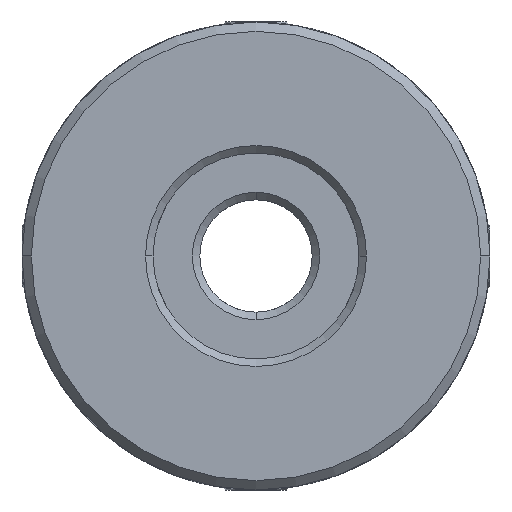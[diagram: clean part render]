
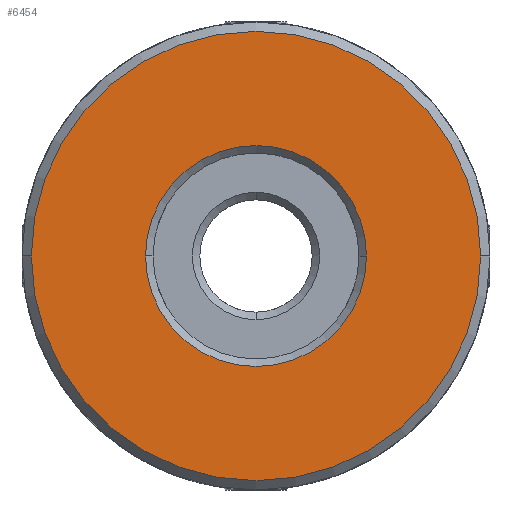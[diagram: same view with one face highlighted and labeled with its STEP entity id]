
A CAD part, front view. The second image highlights one B-rep face of the part: STEP entity #6454.
In plain terms, the highlighted planar face has unit normal (0, -1, 0).
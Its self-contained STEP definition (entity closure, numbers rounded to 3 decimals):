
#403 = AXIS2_PLACEMENT_3D ( 'NONE', #5521, #7060, #4771 ) ;
#439 = CARTESIAN_POINT ( 'NONE',  ( -12., -28., 0. ) ) ;
#606 = FACE_BOUND ( 'NONE', #6794, .T. ) ;
#625 = CIRCLE ( 'NONE', #4371, 5.9 ) ;
#757 = CARTESIAN_POINT ( 'NONE',  ( 0., -28., 0. ) ) ;
#826 = CARTESIAN_POINT ( 'NONE',  ( 0., -28., 0. ) ) ;
#1548 = DIRECTION ( 'NONE',  ( -1., 0., 0. ) ) ;
#1717 = VERTEX_POINT ( 'NONE', #5770 ) ;
#2114 = CIRCLE ( 'NONE', #3420, 12. ) ;
#2271 = EDGE_CURVE ( 'NONE', #4329, #1717, #8046, .T. ) ;
#2500 = DIRECTION ( 'NONE',  ( 0., -1., 0. ) ) ;
#2521 = EDGE_CURVE ( 'NONE', #4036, #4282, #6013, .T. ) ;
#2899 = DIRECTION ( 'NONE',  ( 0., 1., 0. ) ) ;
#3165 = PLANE ( 'NONE',  #403 ) ;
#3420 = AXIS2_PLACEMENT_3D ( 'NONE', #5599, #2500, #6317 ) ;
#4036 = VERTEX_POINT ( 'NONE', #8833 ) ;
#4282 = VERTEX_POINT ( 'NONE', #5541 ) ;
#4329 = VERTEX_POINT ( 'NONE', #439 ) ;
#4371 = AXIS2_PLACEMENT_3D ( 'NONE', #7457, #2899, #6678 ) ;
#4771 = DIRECTION ( 'NONE',  ( -1., 0., 0. ) ) ;
#5135 = EDGE_CURVE ( 'NONE', #4282, #4036, #625, .T. ) ;
#5245 = FACE_OUTER_BOUND ( 'NONE', #8371, .T. ) ;
#5521 = CARTESIAN_POINT ( 'NONE',  ( -19.597, -28., -50. ) ) ;
#5541 = CARTESIAN_POINT ( 'NONE',  ( -5.9, -28., 0. ) ) ;
#5599 = CARTESIAN_POINT ( 'NONE',  ( 0., -28., 0. ) ) ;
#5770 = CARTESIAN_POINT ( 'NONE',  ( 12., -28., 0. ) ) ;
#6013 = CIRCLE ( 'NONE', #9280, 5.9 ) ;
#6081 = DIRECTION ( 'NONE',  ( 0., 1., 0. ) ) ;
#6153 = DIRECTION ( 'NONE',  ( 0., -1., 0. ) ) ;
#6317 = DIRECTION ( 'NONE',  ( -1., 0., 0. ) ) ;
#6454 = ADVANCED_FACE ( 'NONE', ( #5245, #606 ), #3165, .F. ) ;
#6678 = DIRECTION ( 'NONE',  ( -1., 0., 0. ) ) ;
#6794 = EDGE_LOOP ( 'NONE', ( #8932, #8535 ) ) ;
#6895 = DIRECTION ( 'NONE',  ( -1., 0., 0. ) ) ;
#7060 = DIRECTION ( 'NONE',  ( 0., 1., 0. ) ) ;
#7412 = AXIS2_PLACEMENT_3D ( 'NONE', #826, #6153, #6895 ) ;
#7442 = EDGE_CURVE ( 'NONE', #1717, #4329, #2114, .T. ) ;
#7457 = CARTESIAN_POINT ( 'NONE',  ( 0., -28., 0. ) ) ;
#7794 = ORIENTED_EDGE ( 'NONE', *, *, #2271, .T. ) ;
#8046 = CIRCLE ( 'NONE', #7412, 12. ) ;
#8371 = EDGE_LOOP ( 'NONE', ( #7794, #9370 ) ) ;
#8535 = ORIENTED_EDGE ( 'NONE', *, *, #5135, .T. ) ;
#8833 = CARTESIAN_POINT ( 'NONE',  ( 5.9, -28., 0. ) ) ;
#8932 = ORIENTED_EDGE ( 'NONE', *, *, #2521, .T. ) ;
#9280 = AXIS2_PLACEMENT_3D ( 'NONE', #757, #6081, #1548 ) ;
#9370 = ORIENTED_EDGE ( 'NONE', *, *, #7442, .T. ) ;
